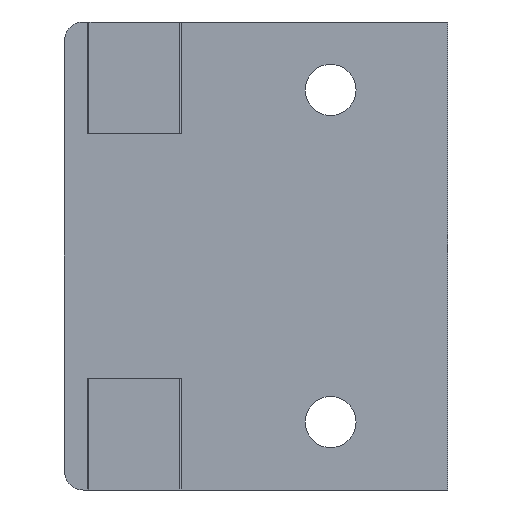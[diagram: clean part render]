
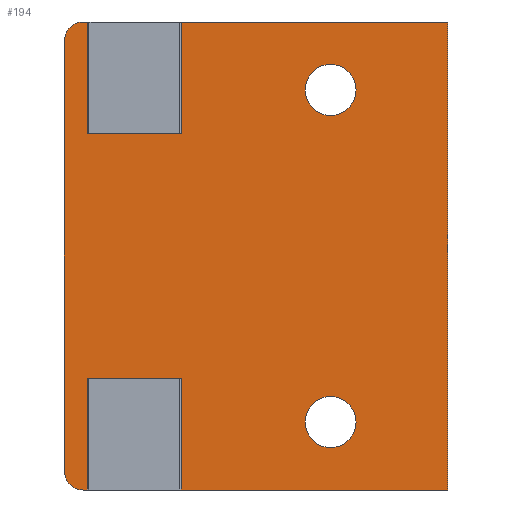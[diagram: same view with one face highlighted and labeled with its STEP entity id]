
A CAD part, front view. The second image highlights one B-rep face of the part: STEP entity #194.
In plain terms, the highlighted planar face has unit normal (0, -1, 0).
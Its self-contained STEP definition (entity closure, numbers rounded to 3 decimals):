
#8 = EDGE_CURVE ( 'NONE', #9, #10, #256, .T. ) ;
#9 = VERTEX_POINT ( 'NONE', #252 ) ;
#10 = VERTEX_POINT ( 'NONE', #251 ) ;
#24 = EDGE_CURVE ( 'NONE', #25, #26, #728, .T. ) ;
#25 = VERTEX_POINT ( 'NONE', #707 ) ;
#26 = VERTEX_POINT ( 'NONE', #733 ) ;
#63 = ORIENTED_EDGE ( 'NONE', *, *, #64, .T. ) ;
#64 = EDGE_CURVE ( 'NONE', #10, #9, #538, .T. ) ;
#65 = ORIENTED_EDGE ( 'NONE', *, *, #8, .T. ) ;
#66 = EDGE_LOOP ( 'NONE', ( #67, #71, #106, #368, #371, #411, #414, #417, #109, #112, #114, #115, #144, #339 ) ) ;
#67 = ORIENTED_EDGE ( 'NONE', *, *, #68, .F. ) ;
#68 = EDGE_CURVE ( 'NONE', #69, #70, #533, .T. ) ;
#69 = VERTEX_POINT ( 'NONE', #529 ) ;
#70 = VERTEX_POINT ( 'NONE', #528 ) ;
#71 = ORIENTED_EDGE ( 'NONE', *, *, #72, .T. ) ;
#72 = EDGE_CURVE ( 'NONE', #69, #73, #527, .T. ) ;
#73 = VERTEX_POINT ( 'NONE', #523 ) ;
#106 = ORIENTED_EDGE ( 'NONE', *, *, #366, .T. ) ;
#107 = EDGE_CURVE ( 'NONE', #416, #108, #723, .T. ) ;
#108 = VERTEX_POINT ( 'NONE', #719 ) ;
#109 = ORIENTED_EDGE ( 'NONE', *, *, #110, .F. ) ;
#110 = EDGE_CURVE ( 'NONE', #111, #108, #718, .T. ) ;
#111 = VERTEX_POINT ( 'NONE', #714 ) ;
#112 = ORIENTED_EDGE ( 'NONE', *, *, #113, .T. ) ;
#113 = EDGE_CURVE ( 'NONE', #111, #205, #713, .T. ) ;
#114 = ORIENTED_EDGE ( 'NONE', *, *, #204, .T. ) ;
#115 = ORIENTED_EDGE ( 'NONE', *, *, #116, .T. ) ;
#116 = EDGE_CURVE ( 'NONE', #218, #143, #672, .T. ) ;
#143 = VERTEX_POINT ( 'NONE', #593 ) ;
#144 = ORIENTED_EDGE ( 'NONE', *, *, #338, .T. ) ;
#145 = VERTEX_POINT ( 'NONE', #592 ) ;
#194 = ADVANCED_FACE ( 'NONE', ( #867, #866, #865 ), #832, .F. ) ;
#195 = EDGE_LOOP ( 'NONE', ( #196, #198 ) ) ;
#196 = ORIENTED_EDGE ( 'NONE', *, *, #197, .T. ) ;
#197 = EDGE_CURVE ( 'NONE', #26, #25, #827, .T. ) ;
#198 = ORIENTED_EDGE ( 'NONE', *, *, #24, .T. ) ;
#199 = EDGE_LOOP ( 'NONE', ( #63, #65 ) ) ;
#204 = EDGE_CURVE ( 'NONE', #205, #218, #812, .T. ) ;
#205 = VERTEX_POINT ( 'NONE', #808 ) ;
#218 = VERTEX_POINT ( 'NONE', #924 ) ;
#227 = DIRECTION ( 'NONE',  ( 0., 0., -1. ) ) ;
#251 = CARTESIAN_POINT ( 'NONE',  ( 52., 9.5, -37.25 ) ) ;
#252 = CARTESIAN_POINT ( 'NONE',  ( 52., 9.5, -50.75 ) ) ;
#253 = DIRECTION ( 'NONE',  ( 0., 0., 1. ) ) ;
#254 = DIRECTION ( 'NONE',  ( 0., 1., 0. ) ) ;
#255 = AXIS2_PLACEMENT_3D ( 'NONE', #257, #254, #253 ) ;
#256 = CIRCLE ( 'NONE', #255, 6.75 ) ;
#257 = CARTESIAN_POINT ( 'NONE',  ( 52., 9.5, -44. ) ) ;
#338 = EDGE_CURVE ( 'NONE', #143, #145, #961, .T. ) ;
#339 = ORIENTED_EDGE ( 'NONE', *, *, #340, .T. ) ;
#340 = EDGE_CURVE ( 'NONE', #145, #70, #799, .T. ) ;
#366 = EDGE_CURVE ( 'NONE', #73, #367, #840, .T. ) ;
#367 = VERTEX_POINT ( 'NONE', #836 ) ;
#368 = ORIENTED_EDGE ( 'NONE', *, *, #369, .F. ) ;
#369 = EDGE_CURVE ( 'NONE', #370, #367, #835, .T. ) ;
#370 = VERTEX_POINT ( 'NONE', #1222 ) ;
#371 = ORIENTED_EDGE ( 'NONE', *, *, #409, .F. ) ;
#409 = EDGE_CURVE ( 'NONE', #410, #370, #1102, .T. ) ;
#410 = VERTEX_POINT ( 'NONE', #1098 ) ;
#411 = ORIENTED_EDGE ( 'NONE', *, *, #412, .T. ) ;
#412 = EDGE_CURVE ( 'NONE', #410, #413, #1097, .T. ) ;
#413 = VERTEX_POINT ( 'NONE', #1152 ) ;
#414 = ORIENTED_EDGE ( 'NONE', *, *, #415, .F. ) ;
#415 = EDGE_CURVE ( 'NONE', #416, #413, #1151, .T. ) ;
#416 = VERTEX_POINT ( 'NONE', #1147 ) ;
#417 = ORIENTED_EDGE ( 'NONE', *, *, #107, .T. ) ;
#523 = CARTESIAN_POINT ( 'NONE',  ( 12.4, 9.5, -62. ) ) ;
#524 = DIRECTION ( 'NONE',  ( 0., 0., -1. ) ) ;
#525 = VECTOR ( 'NONE', #524, 1000. ) ;
#526 = CARTESIAN_POINT ( 'NONE',  ( 12.4, 9.5, -62. ) ) ;
#527 = LINE ( 'NONE', #526, #525 ) ;
#528 = CARTESIAN_POINT ( 'NONE',  ( -12.4, 9.5, -32.5 ) ) ;
#529 = CARTESIAN_POINT ( 'NONE',  ( 12.4, 9.5, -32.5 ) ) ;
#530 = DIRECTION ( 'NONE',  ( -1., 0., 0. ) ) ;
#531 = VECTOR ( 'NONE', #530, 1000. ) ;
#532 = CARTESIAN_POINT ( 'NONE',  ( -18.5, 9.5, -32.5 ) ) ;
#533 = LINE ( 'NONE', #532, #531 ) ;
#534 = DIRECTION ( 'NONE',  ( 0., 0., 1. ) ) ;
#535 = DIRECTION ( 'NONE',  ( 0., 1., 0. ) ) ;
#536 = CARTESIAN_POINT ( 'NONE',  ( 52., 9.5, -44. ) ) ;
#537 = AXIS2_PLACEMENT_3D ( 'NONE', #536, #535, #534 ) ;
#538 = CIRCLE ( 'NONE', #537, 6.75 ) ;
#592 = CARTESIAN_POINT ( 'NONE',  ( -12.4, 9.5, -62. ) ) ;
#593 = CARTESIAN_POINT ( 'NONE',  ( -13.5, 9.5, -62. ) ) ;
#668 = DIRECTION ( 'NONE',  ( 0., 0., 1. ) ) ;
#669 = DIRECTION ( 'NONE',  ( 0., -1., 0. ) ) ;
#670 = CARTESIAN_POINT ( 'NONE',  ( -13.5, 9.5, -57. ) ) ;
#671 = AXIS2_PLACEMENT_3D ( 'NONE', #670, #669, #668 ) ;
#672 = CIRCLE ( 'NONE', #671, 5. ) ;
#673 = DIRECTION ( 'NONE',  ( 0., 0., 1. ) ) ;
#674 = DIRECTION ( 'NONE',  ( 0., -1., 0. ) ) ;
#675 = CARTESIAN_POINT ( 'NONE',  ( -13.5, 9.5, 57. ) ) ;
#707 = CARTESIAN_POINT ( 'NONE',  ( 52., 9.5, 37.25 ) ) ;
#708 = DIRECTION ( 'NONE',  ( 0., 0., 1. ) ) ;
#709 = DIRECTION ( 'NONE',  ( 0., 1., 0. ) ) ;
#710 = CARTESIAN_POINT ( 'NONE',  ( 52., 9.5, 44. ) ) ;
#711 = AXIS2_PLACEMENT_3D ( 'NONE', #710, #709, #708 ) ;
#712 = AXIS2_PLACEMENT_3D ( 'NONE', #675, #674, #673 ) ;
#713 = CIRCLE ( 'NONE', #712, 5. ) ;
#714 = CARTESIAN_POINT ( 'NONE',  ( -13.5, 9.5, 62. ) ) ;
#715 = DIRECTION ( 'NONE',  ( 1., 0., 0. ) ) ;
#716 = VECTOR ( 'NONE', #715, 1000. ) ;
#717 = CARTESIAN_POINT ( 'NONE',  ( -18.5, 9.5, 62. ) ) ;
#718 = LINE ( 'NONE', #717, #716 ) ;
#719 = CARTESIAN_POINT ( 'NONE',  ( -12.4, 9.5, 62. ) ) ;
#720 = DIRECTION ( 'NONE',  ( 0., 0., 1. ) ) ;
#721 = VECTOR ( 'NONE', #720, 1000. ) ;
#722 = CARTESIAN_POINT ( 'NONE',  ( -12.4, 9.5, 62. ) ) ;
#723 = LINE ( 'NONE', #722, #721 ) ;
#728 = CIRCLE ( 'NONE', #711, 6.75 ) ;
#733 = CARTESIAN_POINT ( 'NONE',  ( 52., 9.5, 50.75 ) ) ;
#796 = DIRECTION ( 'NONE',  ( 0., 0., 1. ) ) ;
#797 = VECTOR ( 'NONE', #796, 1000. ) ;
#798 = CARTESIAN_POINT ( 'NONE',  ( -12.4, 9.5, -32.5 ) ) ;
#799 = LINE ( 'NONE', #798, #797 ) ;
#808 = CARTESIAN_POINT ( 'NONE',  ( -18.5, 9.5, 57. ) ) ;
#809 = DIRECTION ( 'NONE',  ( 0., 0., -1. ) ) ;
#810 = VECTOR ( 'NONE', #809, 1000. ) ;
#811 = CARTESIAN_POINT ( 'NONE',  ( -18.5, 9.5, 62. ) ) ;
#812 = LINE ( 'NONE', #811, #810 ) ;
#823 = DIRECTION ( 'NONE',  ( 0., 0., 1. ) ) ;
#824 = DIRECTION ( 'NONE',  ( 0., 1., 0. ) ) ;
#825 = CARTESIAN_POINT ( 'NONE',  ( 52., 9.5, 44. ) ) ;
#826 = AXIS2_PLACEMENT_3D ( 'NONE', #825, #824, #823 ) ;
#827 = CIRCLE ( 'NONE', #826, 6.75 ) ;
#828 = DIRECTION ( 'NONE',  ( 0., 0., 1. ) ) ;
#829 = DIRECTION ( 'NONE',  ( 0., 1., 0. ) ) ;
#830 = CARTESIAN_POINT ( 'NONE',  ( 12., 9.5, 62. ) ) ;
#831 = AXIS2_PLACEMENT_3D ( 'NONE', #830, #829, #828 ) ;
#832 = PLANE ( 'NONE',  #831 ) ;
#833 = VECTOR ( 'NONE', #227, 1000. ) ;
#834 = CARTESIAN_POINT ( 'NONE',  ( 83., 9.5, 62. ) ) ;
#835 = LINE ( 'NONE', #834, #833 ) ;
#836 = CARTESIAN_POINT ( 'NONE',  ( 83., 9.5, -62. ) ) ;
#837 = DIRECTION ( 'NONE',  ( 1., 0., 0. ) ) ;
#838 = VECTOR ( 'NONE', #837, 1000. ) ;
#839 = CARTESIAN_POINT ( 'NONE',  ( 12., 9.5, -62. ) ) ;
#840 = LINE ( 'NONE', #839, #838 ) ;
#865 = FACE_OUTER_BOUND ( 'NONE', #66, .T. ) ;
#866 = FACE_BOUND ( 'NONE', #199, .T. ) ;
#867 = FACE_BOUND ( 'NONE', #195, .T. ) ;
#924 = CARTESIAN_POINT ( 'NONE',  ( -18.5, 9.5, -57. ) ) ;
#958 = DIRECTION ( 'NONE',  ( 1., 0., 0. ) ) ;
#959 = VECTOR ( 'NONE', #958, 1000. ) ;
#960 = CARTESIAN_POINT ( 'NONE',  ( -18.5, 9.5, -62. ) ) ;
#961 = LINE ( 'NONE', #960, #959 ) ;
#1097 = LINE ( 'NONE', #1155, #1154 ) ;
#1098 = CARTESIAN_POINT ( 'NONE',  ( 12.4, 9.5, 62. ) ) ;
#1099 = DIRECTION ( 'NONE',  ( 1., 0., 0. ) ) ;
#1100 = VECTOR ( 'NONE', #1099, 1000. ) ;
#1101 = CARTESIAN_POINT ( 'NONE',  ( 12., 9.5, 62. ) ) ;
#1102 = LINE ( 'NONE', #1101, #1100 ) ;
#1147 = CARTESIAN_POINT ( 'NONE',  ( -12.4, 9.5, 32.5 ) ) ;
#1148 = DIRECTION ( 'NONE',  ( 1., 0., 0. ) ) ;
#1149 = VECTOR ( 'NONE', #1148, 1000. ) ;
#1150 = CARTESIAN_POINT ( 'NONE',  ( -18.5, 9.5, 32.5 ) ) ;
#1151 = LINE ( 'NONE', #1150, #1149 ) ;
#1152 = CARTESIAN_POINT ( 'NONE',  ( 12.4, 9.5, 32.5 ) ) ;
#1153 = DIRECTION ( 'NONE',  ( 0., 0., -1. ) ) ;
#1154 = VECTOR ( 'NONE', #1153, 1000. ) ;
#1155 = CARTESIAN_POINT ( 'NONE',  ( 12.4, 9.5, 32.5 ) ) ;
#1222 = CARTESIAN_POINT ( 'NONE',  ( 83., 9.5, 62. ) ) ;
